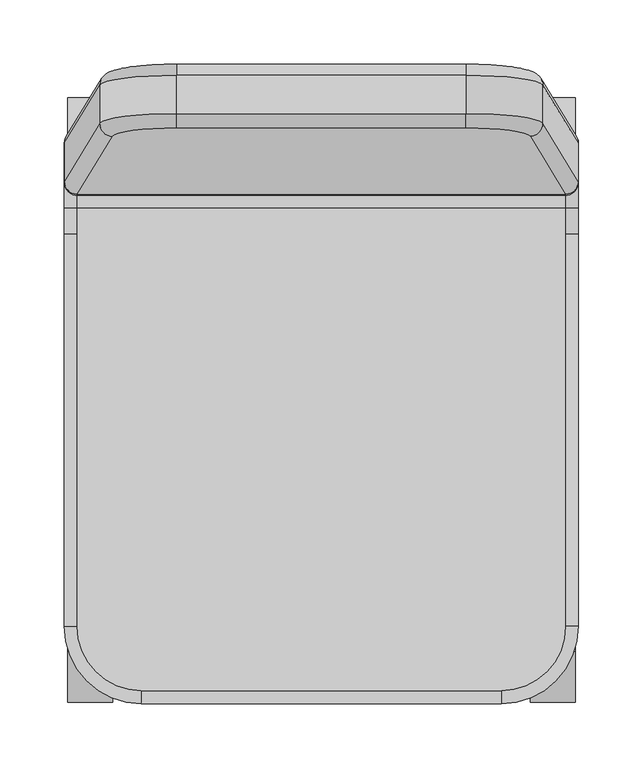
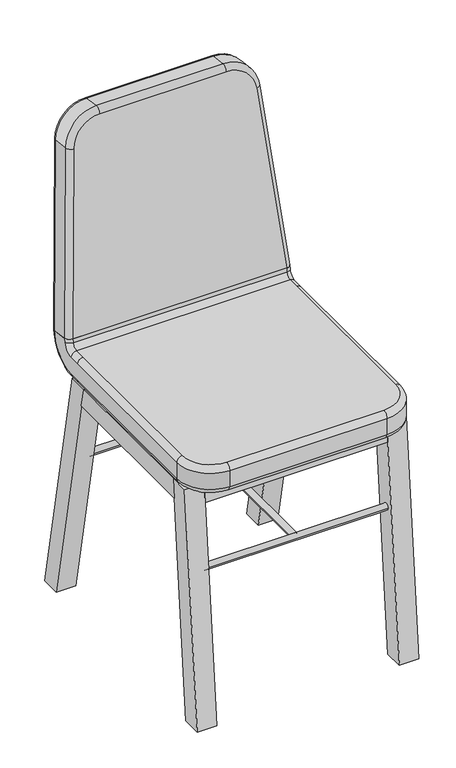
"""IFC4 building model written with IfcOpenShell, lengths in millimetres: furniture geometry, A Slim+back rest_H865-SH463 : A Slim+back rest_H865-SH463."""

from ifc_helpers import new_model, si_unit, point, frame, frame_2d, origin, place, context, project, spatial, polyline, circle_curve, ellipse_curve, trimmed, segment, composite_curve, outline, extrude, faceted_brep, source, transform, mapped, element, save
from ifc_brep_helpers import plane_surface, cylinder_surface, revolved_surface, advanced_brep


def furniture_b58ee545(model_context):
    return source(origin(), model_context, "Body", "SolidModel", [
        extrude(outline(polyline([(197.9880784, 398.0), (162.9880784, 398.0), (160.8287251, 409.0), (166.1174087, 409.0), (166.1174087, 422.0), (158.276762, 422.0), (156.1174087, 433.0), (191.1174087, 433.0), (197.9880784, 398.0)])), frame((-162.5, 0.0, 0.0), z_axis=(1.0, 0.0, 0.0), x_axis=(0.0, 1.0, 0.0)), (0.0, 0.0, 1.0), 325.0),
        faceted_brep([(-197.5, 162.9880784, 398.0), (-197.5, -123.0350162, 398.0), (-197.5, -119.8825913, 433.0), (-197.5, 156.1174087, 433.0), (-162.5, 156.1174087, 433.0), (-162.5, -119.8825913, 433.0), (-162.5, -120.8733534, 422.0), (-162.5, 158.276762, 422.0), (-162.5, -123.0350162, 398.0), (-162.5, 162.9880784, 398.0), (-162.5, 160.8287251, 409.0), (-162.5, -122.0442541, 409.0), (-172.5, 158.276762, 422.0), (-172.5, 160.8287251, 409.0), (-172.5, -122.0442541, 409.0), (-172.5, -120.8733534, 422.0)], [[[0, 1, 2, 3]], [[4, 5, 6, 7]], [[8, 9, 10, 11]], [[0, 3, 4, 7, 12, 13, 10, 9]], [[3, 2, 5, 4]], [[2, 1, 8, 11, 14, 15, 6, 5]], [[1, 0, 9, 8]], [[15, 12, 7, 6]], [[13, 14, 11, 10]], [[12, 15, 14, 13]]]),
        extrude(outline(polyline([(-157.4340818, 398.0), (-154.8825913, 433.0), (-119.9700277, 433.0), (-120.7719247, 422.0), (-129.9700277, 422.0), (-129.9700277, 409.0), (-121.7196212, 409.0), (-122.5215182, 398.0), (-157.4340818, 398.0)])), frame((-162.5, 0.0, 0.0), z_axis=(1.0, 0.0, 0.0), x_axis=(0.0, 1.0, 0.0)), (0.0, 0.0, 1.0), 325.0),
        faceted_brep([(162.5, 162.9880784, 398.0), (162.5, -123.0350162, 398.0), (162.5, -122.0442541, 409.0), (162.5, 160.8287251, 409.0), (162.5, -119.8825913, 433.0), (162.5, 156.1174087, 433.0), (162.5, 158.276762, 422.0), (162.5, -120.8733534, 422.0), (197.5, 162.9880784, 398.0), (197.5, 156.1174087, 433.0), (197.5, -119.8825913, 433.0), (197.5, -123.0350162, 398.0), (172.5, 160.8287251, 409.0), (172.5, 158.276762, 422.0), (172.5, -120.8733534, 422.0), (172.5, -122.0442541, 409.0)], [[[0, 1, 2, 3]], [[4, 5, 6, 7]], [[8, 9, 10, 11]], [[9, 8, 0, 3, 12, 13, 6, 5]], [[5, 4, 10, 9]], [[11, 10, 4, 7, 14, 15, 2, 1]], [[1, 0, 8, 11]], [[13, 14, 7, 6]], [[15, 12, 3, 2]], [[14, 13, 12, 15]]]),
        extrude(outline(composite_curve([segment(trimmed(circle_curve(frame_2d((-153.723629, 275.0)), 6.0), [point((-147.723629, 275.0))], [point((-159.723629, 275.0))], False, "CARTESIAN"), True, "CONTINUOUS"), segment(trimmed(circle_curve(frame_2d((-153.723629, 275.0)), 6.0), [point((-159.723629, 275.0))], [point((-147.723629, 275.0))], False, "CARTESIAN"), True, "CONTINUOUS")], self_intersect=False)), frame((-162.5, 0.0, 0.0), z_axis=(1.0, 0.0, 0.0), x_axis=(0.0, 1.0, 0.0)), (0.0, 0.0, 1.0), 325.0),
        extrude(outline(composite_curve([segment(trimmed(circle_curve(frame_2d((200.3092905, 275.0)), 6.0), [point((194.3092905, 275.0))], [point((206.3092905, 275.0))], False, "CARTESIAN"), True, "CONTINUOUS"), segment(trimmed(circle_curve(frame_2d((200.3092905, 275.0)), 6.0), [point((206.3092905, 275.0))], [point((194.3092905, 275.0))], False, "CARTESIAN"), True, "CONTINUOUS")], self_intersect=False)), frame((-162.5, 0.0, 0.0), z_axis=(1.0, 0.0, 0.0), x_axis=(0.0, 1.0, 0.0)), (0.0, 0.0, 1.0), 325.0),
        extrude(outline(composite_curve([segment(trimmed(circle_curve(frame_2d((275.0, 0.0)), 6.0), [point((275.0, -6.0))], [point((275.0, 6.0))], False, "CARTESIAN"), True, "CONTINUOUS"), segment(trimmed(circle_curve(frame_2d((275.0, 0.0)), 6.0), [point((275.0, 6.0))], [point((275.0, -6.0))], False, "CARTESIAN"), True, "CONTINUOUS")], self_intersect=False)), frame((0.0, -152.6825913, 0.0), z_axis=(0.0, 1.0, 0.0), x_axis=(0.0, 0.0, 1.0)), (0.0, 0.0, 1.0), 352.9918818),
        extrude(outline(polyline([(-158.8825913, 0.0), (-193.8825913, 0.0), (-154.8825913, 433.0), (-119.8825913, 433.0), (-158.8825913, 0.0)])), frame((-197.5, 0.0, 0.0), z_axis=(1.0, 0.0, 0.0), x_axis=(0.0, 1.0, 0.0)), (0.0, 0.0, 1.0), 35.0),
        extrude(outline(polyline([(276.1174087, 0.0), (241.1174087, 0.0), (156.1174087, 433.0), (191.1174087, 433.0), (276.1174087, 0.0)])), frame((-197.5, 0.0, 0.0), z_axis=(1.0, 0.0, 0.0), x_axis=(0.0, 1.0, 0.0)), (0.0, 0.0, 1.0), 35.0),
        extrude(outline(polyline([(276.1174087, 0.0), (241.1174087, 0.0), (156.1174087, 433.0), (191.1174087, 433.0), (276.1174087, 0.0)])), frame((162.5, 0.0, 0.0), z_axis=(1.0, 0.0, 0.0), x_axis=(0.0, 1.0, 0.0)), (0.0, 0.0, 1.0), 35.0),
        extrude(outline(polyline([(-158.8825913, 0.0), (-193.8825913, 0.0), (-154.8825913, 433.0), (-119.8825913, 433.0), (-158.8825913, 0.0)])), frame((162.5, 0.0, 0.0), z_axis=(1.0, 0.0, 0.0), x_axis=(0.0, 1.0, 0.0)), (0.0, 0.0, 1.0), 35.0),
        advanced_brep(
        [(-189.9658674, 201.0, 499.0), (189.9638891, 201.0, 499.0), (162.45903, 246.0027056, 819.2108889), (112.6493241, 252.3548743, 864.4089174), (-112.6513024, 252.3548743, 864.4089174), (-162.4610373, 246.002706, 819.2108914), (189.9638891, 250.5134034, 492.041345), (-189.9658674, 250.5134034, 492.041345), (-162.4610084, 295.516109, 812.2522339), (-112.6513024, 301.8682777, 857.4502623), (112.6493241, 301.8682777, 857.4502623), (162.459059, 295.5161094, 812.2522363), (-112.6513024, 263.649286, 872.919867), (112.6493241, 263.649286, 872.919867), (112.6493241, 293.357328, 868.744674), (-112.6513024, 293.357328, 868.744674), (-200.0019784, 210.9026807, 497.608269), (-200.0019784, 240.6107227, 493.433076), (200.0, 240.6107227, 493.433076), (200.0, 210.9026807, 497.608269), (-172.4229843, 256.026684, 818.6822359), (-172.4229843, 285.7347261, 814.5070428), (172.4210059, 256.026684, 818.6822359), (172.4210059, 285.7347261, 814.5070428)],
        [
            (0, 1),
            (1, 2),
            (2, 3, circle_curve(frame((112.6493241, 245.3962192, 814.8955139), z_axis=(0.0, -0.9902680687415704, 0.13917310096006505), x_axis=(0.9961946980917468, 0.012129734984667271, 0.08630754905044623)), 50.0)),
            (3, 4),
            (4, 5, circle_curve(frame((-112.6513024, 245.3962192, 814.8955139), z_axis=(0.0, -0.9902680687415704, 0.13917310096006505), x_axis=(0.0, 0.13917310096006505, 0.9902680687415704)), 50.0)),
            (5, 0),
            (6, 7),
            (7, 8),
            (8, 9, circle_curve(frame((-112.6513024, 294.9096226, 807.9368589), z_axis=(0.0, 0.9902680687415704, -0.13917310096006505), x_axis=(-0.996194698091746, 0.01212973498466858, 0.08630754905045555)), 50.0)),
            (9, 10),
            (10, 11, circle_curve(frame((112.6493241, 294.9096226, 807.9368589), z_axis=(0.0, 0.9902680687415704, -0.13917310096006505), x_axis=(0.0, 0.13917310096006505, 0.9902680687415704)), 50.0)),
            (11, 6),
            (12, 13),
            (13, 14),
            (14, 15),
            (15, 12),
            (0, 16, ellipse_curve(frame((-189.9658674, 210.9026807, 497.608269), z_axis=(0.0, -0.13917310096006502, -0.9902680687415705), x_axis=(-1.0, 0.0, 0.0)), 10.0361109, 10.0)),
            (16, 17),
            (17, 7, ellipse_curve(frame((-189.9658674, 240.6107227, 493.433076), z_axis=(0.0, -0.13917310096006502, -0.9902680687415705), x_axis=(1.0, 0.0, 0.0)), 10.0361109, 10.0)),
            (6, 18, ellipse_curve(frame((189.9638891, 240.6107227, 493.433076), z_axis=(0.0, -0.13917310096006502, -0.9902680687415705), x_axis=(1.0, 0.0, 0.0)), 10.0361109, 10.0)),
            (18, 19),
            (19, 1, ellipse_curve(frame((189.9638891, 210.9026807, 497.608269), z_axis=(0.0, -0.13917310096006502, -0.9902680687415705), x_axis=(-1.0, 0.0, 0.0)), 10.0361109, 10.0)),
            (16, 20),
            (20, 21),
            (21, 17),
            (22, 19),
            (18, 23),
            (23, 22),
            (20, 12, circle_curve(frame((-112.6513024, 255.2988999, 813.5037829), z_axis=(0.0, 0.9902680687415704, -0.13917310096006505), x_axis=(1.0, 0.0, 0.0)), 60.0)),
            (15, 21, circle_curve(frame((-112.6513024, 285.006942, 809.3285899), z_axis=(0.0, -0.9902680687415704, 0.13917310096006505), x_axis=(1.0, 0.0, 0.0)), 60.0)),
            (13, 22, circle_curve(frame((112.6493241, 255.2988999, 813.5037829), z_axis=(0.0, 0.9902680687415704, -0.13917310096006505), x_axis=(1.0, 0.0, 0.0)), 60.0)),
            (23, 14, circle_curve(frame((112.6493241, 285.006942, 809.3285899), z_axis=(0.0, -0.9902680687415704, 0.13917310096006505), x_axis=(1.0, 0.0, 0.0)), 60.0)),
            (22, 2, circle_curve(frame((162.459059, 255.9053866, 817.8191604), z_axis=(0.08715574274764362, -0.1386435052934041, -0.9864997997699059), x_axis=(-0.9961946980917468, -0.012129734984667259, -0.08630754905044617)), 10.0)),
            (13, 3, circle_curve(frame((112.6493241, 262.2575549, 863.0171864), z_axis=(1.0, 0.0, 0.0), x_axis=(0.0, -0.13917310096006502, -0.9902680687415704)), 10.0)),
            (12, 4, circle_curve(frame((-112.6513024, 262.2575549, 863.0171864), z_axis=(1.0, 0.0, 0.0), x_axis=(0.0, -0.13917310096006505, -0.9902680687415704)), 10.0)),
            (20, 5, circle_curve(frame((-162.4610373, 255.9053866, 817.8191604), z_axis=(0.08715574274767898, 0.13864350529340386, 0.9864997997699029), x_axis=(0.9961946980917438, -0.012129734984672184, -0.0863075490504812)), 10.0)),
            (21, 8, circle_curve(frame((-162.4610373, 285.6134287, 813.6439673), z_axis=(-0.08715574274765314, -0.13864350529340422, -0.9864997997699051), x_axis=(0.996194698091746, -0.012129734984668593, -0.08630754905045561)), 10.0)),
            (15, 9, circle_curve(frame((-112.6513024, 291.965597, 858.8419933), z_axis=(-1.0, 0.0, 0.0), x_axis=(0.0, -0.13917310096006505, -0.9902680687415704)), 10.0)),
            (14, 10, circle_curve(frame((112.6493241, 291.965597, 858.8419933), z_axis=(-1.0, 0.0, 0.0), x_axis=(0.0, -0.13917310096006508, -0.9902680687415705)), 10.0)),
            (23, 11, circle_curve(frame((162.459059, 285.6134287, 813.6439673), z_axis=(-0.087155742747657, 0.13864350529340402, 0.9864997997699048), x_axis=(-0.9961946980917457, -0.012129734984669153, -0.08630754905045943)), 10.0)),
        ],
        [
            plane_surface(frame((-112.6513024, 253.7466053, 874.3115981), z_axis=(0.0, -0.9902680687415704, 0.13917310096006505), x_axis=(-1.0, 0.0, 0.0))),
            plane_surface(frame((-112.6513024, 303.2600087, 867.352943), z_axis=(0.0, 0.9902680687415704, -0.13917310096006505), x_axis=(1.0, 0.0, 0.0))),
            plane_surface(frame((112.6493241, 253.7466053, 874.3115981), z_axis=(0.0, 0.13917310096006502, 0.9902680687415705), x_axis=(0.0, 0.9902680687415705, -0.13917310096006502))),
            plane_surface(frame((-200.0019784, 201.0, 499.0), z_axis=(0.0, -0.13917310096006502, -0.9902680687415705), x_axis=(0.0, 0.9902680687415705, -0.13917310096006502))),
            plane_surface(frame((-172.4229843, 246.1240033, 820.0739669), z_axis=(-0.9964018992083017, 0.011795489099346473, 0.08392926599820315), x_axis=(0.0, 0.9902680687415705, -0.13917310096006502))),
            plane_surface(frame((200.0, 201.0, 499.0), z_axis=(0.9964018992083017, 0.011795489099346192, 0.08392926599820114), x_axis=(0.0, 0.9902680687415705, -0.13917310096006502))),
            cylinder_surface(frame((-112.6513024, 294.9096226, 807.9368589), z_axis=(0.0, -0.9902680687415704, 0.13917310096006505), x_axis=(1.0, 0.0, 0.0)), 60.0),
            cylinder_surface(frame((112.6493241, 294.9096226, 807.9368589), z_axis=(0.0, -0.9902680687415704, 0.13917310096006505), x_axis=(1.0, 0.0, 0.0)), 60.0),
            cylinder_surface(frame((190.035981, 210.7847258, 496.7689763), z_axis=(-0.08475408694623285, 0.13867234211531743, 0.9867049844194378), x_axis=(-0.9964018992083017, -0.011795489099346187, -0.08392926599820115)), 10.0),
            revolved_surface(trimmed(ellipse_curve(frame((162.459059, 255.9053866, 817.8191604), z_axis=(0.08715574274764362, -0.1386435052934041, -0.9864997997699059), x_axis=(-0.9961946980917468, -0.012129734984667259, -0.08630754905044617)), 10.0, 10.0), [point((172.4210059, 256.026684, 818.6822359))], [point((162.459059, 246.002706, 819.2108914))], True, "CARTESIAN"), (112.6493241, 245.3962192, 814.8955139), (0.0, -0.9902680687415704, 0.13917310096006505)),
            cylinder_surface(frame((112.6493241, 262.2575549, 863.0171864), z_axis=(-1.0, 0.0, 0.0), x_axis=(0.0, -0.13917310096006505, -0.9902680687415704)), 10.0),
            revolved_surface(trimmed(ellipse_curve(frame((-112.6513024, 262.2575549, 863.0171864), z_axis=(1.0, 0.0, 0.0), x_axis=(0.0, -0.13917310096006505, -0.9902680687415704)), 10.0, 10.0), [point((-112.6513024, 263.649286, 872.919867))], [point((-112.6513024, 252.3548743, 864.4089174))], True, "CARTESIAN"), (-112.6513024, 245.3962192, 814.8955139), (0.0, -0.9902680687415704, 0.13917310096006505)),
            cylinder_surface(frame((-162.4589653, 255.9087291, 817.8429432), z_axis=(-0.08475408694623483, -0.1386723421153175, -0.9867049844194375), x_axis=(0.9964018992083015, -0.011795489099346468, -0.0839292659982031)), 10.0),
            cylinder_surface(frame((-190.0379594, 240.4927679, 492.5937833), z_axis=(0.08475408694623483, 0.13867234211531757, 0.9867049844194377), x_axis=(0.9964018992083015, -0.01179548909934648, -0.0839292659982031)), 10.0),
            revolved_surface(trimmed(ellipse_curve(frame((-162.4610373, 285.6134287, 813.6439673), z_axis=(-0.08715574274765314, -0.13864350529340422, -0.9864997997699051), x_axis=(0.996194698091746, -0.012129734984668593, -0.08630754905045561)), 10.0, 10.0), [point((-172.4229843, 285.7347261, 814.5070428))], [point((-162.4610373, 295.5161094, 812.2522363))], True, "CARTESIAN"), (-112.6513024, 294.9096226, 807.9368589), (0.0, 0.9902680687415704, -0.13917310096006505)),
            cylinder_surface(frame((-112.6513024, 291.965597, 858.8419933), z_axis=(1.0000000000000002, 0.0, 0.0), x_axis=(0.0, -0.13917310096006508, -0.9902680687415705)), 10.0),
            revolved_surface(trimmed(ellipse_curve(frame((112.6493241, 291.965597, 858.8419933), z_axis=(-1.0, 0.0, 0.0), x_axis=(0.0, -0.13917310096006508, -0.9902680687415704)), 10.0, 10.0), [point((112.6493241, 293.357328, 868.744674))], [point((112.6493241, 301.8682777, 857.4502623))], True, "CARTESIAN"), (112.6493241, 294.9096226, 807.9368589), (0.0, 0.9902680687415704, -0.13917310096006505)),
            cylinder_surface(frame((162.4569869, 285.6167712, 813.6677502), z_axis=(0.08475408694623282, -0.13867234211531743, -0.9867049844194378), x_axis=(-0.9964018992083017, -0.011795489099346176, -0.08392926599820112)), 10.0),
        ],
        [
            (0, [[1, 2, 3, 4, 5, 6]]),
            (1, [[7, 8, 9, 10, 11, 12]]),
            (2, [[13, 14, 15, 16]]),
            (3, [[-1, 17, 18, 19, -7, 20, 21, 22]]),
            (4, [[23, 24, 25, -18]]),
            (5, [[26, -21, 27, 28]]),
            (6, [[29, -16, 30, -24]]),
            (7, [[31, -28, 32, -14]]),
            (8, [[33, -2, -22, -26]]),
            (9, [[-33, -31, 34, -3]]),
            (10, [[-34, -13, 35, -4]]),
            (11, [[-35, -29, 36, -5]]),
            (12, [[-36, -23, -17, -6]]),
            (13, [[37, -8, -19, -25]]),
            (14, [[-37, -30, 38, -9]]),
            (15, [[-38, -15, 39, -10]]),
            (16, [[-39, -32, 40, -11]]),
            (17, [[-40, -27, -20, -12]]),
        ],
    ),
        advanced_brep(
        [(-190.0, 170.0605576, 483.0), (-190.0, -135.0, 483.0), (-140.0, -185.0, 483.0), (140.0, -185.0, 483.0), (190.0, -135.0, 483.0), (190.0, 170.0605576, 483.0), (190.0, 190.0605576, 483.0), (-190.0, 190.0605576, 483.0), (190.0, 170.0605576, 433.0), (190.0, -135.0, 433.0), (140.0, -185.0, 433.0), (-140.0, -185.0, 433.0), (-190.0, -135.0, 433.0), (-190.0, 170.0605576, 433.0), (-190.0, 190.0605576, 433.0), (190.0, 190.0605576, 433.0), (-200.0, -135.0, 473.0), (-200.0, 170.0605576, 473.0), (-200.0, 190.0605576, 473.0), (-200.0, 209.865919, 490.216538), (-200.0, 210.9101366, 497.6465328), (-200.0, 240.6181787, 493.4713398), (-200.0, 239.573961, 486.041345), (-200.0, 190.0605576, 443.0), (-200.0, 170.0605576, 443.0), (-200.0, -135.0, 443.0), (-140.0, -195.0, 473.0), (-140.0, -195.0, 443.0), (140.0, -195.0, 473.0), (140.0, -195.0, 443.0), (200.0, -135.0, 473.0), (200.0, -135.0, 443.0), (200.0, 170.0605576, 473.0), (200.0, 170.0605576, 443.0), (200.0, 190.0605576, 443.0), (200.0, 239.573961, 486.041345), (200.0, 240.6181787, 493.4713398), (200.0, 210.9101366, 497.6465328), (200.0, 209.865919, 490.216538), (200.0, 190.0605576, 473.0), (-190.0, 201.007456, 499.0382638), (190.0, 201.007456, 499.0382638), (190.0, 250.5208594, 492.0796088), (-190.0, 250.5208594, 492.0796088), (190.0, 199.9632383, 491.608269), (-190.0, 199.9632383, 491.608269), (-190.0, 249.4766417, 484.6496139), (190.0, 249.4766417, 484.6496139)],
        [
            (0, 1),
            (1, 2, circle_curve(frame((-140.0, -135.0, 483.0), z_axis=(0.0, 0.0, 1.0), x_axis=(-1.0, 0.0, 0.0)), 50.0)),
            (2, 3),
            (3, 4, circle_curve(frame((140.0, -135.0, 483.0), z_axis=(0.0, 0.0, 1.0), x_axis=(0.0, -1.0, 0.0)), 50.0)),
            (4, 5),
            (5, 6),
            (6, 7),
            (7, 0),
            (8, 9),
            (9, 10, circle_curve(frame((140.0, -135.0, 433.0), z_axis=(0.0, 0.0, -1.0), x_axis=(1.0, 0.0, 0.0)), 50.0)),
            (10, 11),
            (11, 12, circle_curve(frame((-140.0, -135.0, 433.0), z_axis=(0.0, 0.0, -1.0), x_axis=(0.0, -1.0, 0.0)), 50.0)),
            (12, 13),
            (13, 14),
            (14, 15),
            (15, 8),
            (16, 17),
            (17, 18),
            (18, 19, circle_curve(frame((-200.0, 190.0605576, 493.0), z_axis=(1.0, 0.0, 0.0), x_axis=(0.0, 0.0, -1.0)), 20.0)),
            (19, 20),
            (20, 21),
            (21, 22),
            (22, 23, circle_curve(frame((-200.0, 190.0605576, 493.0), z_axis=(-1.0, 0.0, 0.0), x_axis=(0.0, 0.0, -1.0)), 50.0)),
            (23, 24),
            (24, 25),
            (25, 16),
            (26, 16, circle_curve(frame((-140.0, -135.0, 473.0), z_axis=(0.0, 0.0, -1.0), x_axis=(1.0, 0.0, 0.0)), 60.0)),
            (25, 27, circle_curve(frame((-140.0, -135.0, 443.0), z_axis=(0.0, 0.0, 1.0), x_axis=(1.0, 0.0, 0.0)), 60.0)),
            (27, 26),
            (28, 26),
            (27, 29),
            (29, 28),
            (30, 28, circle_curve(frame((140.0, -135.0, 473.0), z_axis=(0.0, 0.0, -1.0), x_axis=(1.0, 0.0, 0.0)), 60.0)),
            (29, 31, circle_curve(frame((140.0, -135.0, 443.0), z_axis=(0.0, 0.0, 1.0), x_axis=(1.0, 0.0, 0.0)), 60.0)),
            (31, 30),
            (32, 30),
            (31, 33),
            (33, 34),
            (34, 35, circle_curve(frame((200.0, 190.0605576, 493.0), z_axis=(1.0, 0.0, 0.0), x_axis=(0.0, 0.0, -1.0)), 50.0)),
            (35, 36),
            (36, 37),
            (37, 38),
            (38, 39, circle_curve(frame((200.0, 190.0605576, 493.0), z_axis=(-1.0, 0.0, 0.0), x_axis=(0.0, 0.0, -1.0)), 20.0)),
            (39, 32),
            (16, 1, circle_curve(frame((-190.0, -135.0, 473.0), z_axis=(0.0, 1.0, 0.0), x_axis=(1.0, 0.0, 0.0)), 10.0)),
            (0, 17, circle_curve(frame((-190.0, 170.0605576, 473.0), z_axis=(0.0, -1.0, 0.0), x_axis=(1.0, 0.0, 0.0)), 10.0)),
            (26, 2, circle_curve(frame((-140.0, -185.0, 473.0), z_axis=(-1.0, 0.0, 0.0), x_axis=(0.0, 1.0, 0.0)), 10.0)),
            (28, 3, circle_curve(frame((140.0, -185.0, 473.0), z_axis=(-1.0, 0.0, 0.0), x_axis=(0.0, 1.0, 0.0)), 10.0)),
            (30, 4, circle_curve(frame((190.0, -135.0, 473.0), z_axis=(0.0, -1.0, 0.0), x_axis=(-1.0, 0.0, 0.0)), 10.0)),
            (32, 5, circle_curve(frame((190.0, 170.0605576, 473.0), z_axis=(0.0, -1.0, 0.0), x_axis=(-1.0, 0.0, 0.0)), 10.0)),
            (31, 9, circle_curve(frame((190.0, -135.0, 443.0), z_axis=(0.0, 1.0, 0.0), x_axis=(-1.0, 0.0, 0.0)), 10.0)),
            (8, 33, circle_curve(frame((190.0, 170.0605576, 443.0), z_axis=(0.0, -1.0, 0.0), x_axis=(-1.0, 0.0, 0.0)), 10.0)),
            (29, 10, circle_curve(frame((140.0, -185.0, 443.0), z_axis=(1.0, 0.0, 0.0), x_axis=(0.0, 1.0, 0.0)), 10.0)),
            (27, 11, circle_curve(frame((-140.0, -185.0, 443.0), z_axis=(1.0, 0.0, 0.0), x_axis=(0.0, 1.0, 0.0)), 10.0)),
            (25, 12, circle_curve(frame((-190.0, -135.0, 443.0), z_axis=(0.0, -1.0, 0.0), x_axis=(1.0, 0.0, 0.0)), 10.0)),
            (24, 13, circle_curve(frame((-190.0, 170.0605576, 443.0), z_axis=(0.0, -1.0, 0.0), x_axis=(1.0, 0.0, 0.0)), 10.0)),
            (20, 40, circle_curve(frame((-190.0, 210.9101366, 497.6465328), z_axis=(0.0, 0.13917310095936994, 0.9902680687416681), x_axis=(0.0, -0.9902680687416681, 0.13917310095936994)), 10.0)),
            (40, 41),
            (41, 37, circle_curve(frame((190.0, 210.9101366, 497.6465328), z_axis=(0.0, 0.13917310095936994, 0.9902680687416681), x_axis=(0.0, -0.9902680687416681, 0.13917310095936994)), 10.0)),
            (36, 42, circle_curve(frame((190.0, 240.6181787, 493.4713398), z_axis=(0.0, 0.13917310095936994, 0.9902680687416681), x_axis=(0.0, -0.9902680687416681, 0.13917310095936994)), 10.0)),
            (42, 43),
            (43, 21, circle_curve(frame((-190.0, 240.6181787, 493.4713398), z_axis=(0.0, 0.13917310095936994, 0.9902680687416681), x_axis=(0.0, -0.9902680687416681, 0.13917310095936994)), 10.0)),
            (7, 18, circle_curve(frame((-190.0, 190.0605576, 473.0), z_axis=(0.0, -1.0, 0.0), x_axis=(0.0, 0.0, 1.0)), 10.0)),
            (23, 14, circle_curve(frame((-190.0, 190.0605576, 443.0), z_axis=(0.0, -1.0, 0.0), x_axis=(0.0, 0.0, 1.0)), 10.0)),
            (15, 34, circle_curve(frame((190.0, 190.0605576, 443.0), z_axis=(0.0, -1.0, 0.0), x_axis=(0.0, 0.0, 1.0)), 10.0)),
            (39, 6, circle_curve(frame((190.0, 190.0605576, 473.0), z_axis=(0.0, -1.0, 0.0), x_axis=(0.0, 0.0, 1.0)), 10.0)),
            (6, 44, circle_curve(frame((190.0, 190.0605576, 493.0), z_axis=(1.0, 0.0, 0.0), x_axis=(0.0, 0.0, -1.0)), 10.0)),
            (44, 45),
            (45, 7, circle_curve(frame((-190.0, 190.0605576, 493.0), z_axis=(-1.0, 0.0, 0.0), x_axis=(0.0, 0.0, -1.0)), 10.0)),
            (45, 19, circle_curve(frame((-190.0, 209.865919, 490.216538), z_axis=(0.0, -0.13917310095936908, -0.9902680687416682), x_axis=(0.0, -0.9902680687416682, 0.13917310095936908)), 10.0)),
            (22, 46, circle_curve(frame((-190.0, 239.573961, 486.041345), z_axis=(0.0, -0.13917310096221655, -0.9902680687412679), x_axis=(0.0, -0.9902680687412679, 0.13917310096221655)), 10.0)),
            (46, 14, circle_curve(frame((-190.0, 190.0605576, 493.0), z_axis=(-1.0, 0.0, 0.0), x_axis=(0.0, 0.0, -1.0)), 60.0)),
            (46, 47),
            (47, 15, circle_curve(frame((190.0, 190.0605576, 493.0), z_axis=(-1.0, 0.0, 0.0), x_axis=(0.0, 0.0, -1.0)), 60.0)),
            (47, 35, circle_curve(frame((190.0, 239.573961, 486.041345), z_axis=(0.0, -0.13917310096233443, -0.9902680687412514), x_axis=(0.0, -0.9902680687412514, 0.13917310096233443)), 10.0)),
            (38, 44, circle_curve(frame((190.0, 209.865919, 490.216538), z_axis=(0.0, -0.13917310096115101, -0.9902680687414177), x_axis=(0.0, -0.9902680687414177, 0.13917310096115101)), 10.0)),
            (40, 45),
            (44, 41),
            (43, 46),
            (42, 47),
        ],
        [
            plane_surface(frame((-200.0, 170.0605576, 483.0), z_axis=(0.0, 0.0, 1.0), x_axis=(-1.0, 0.0, 0.0))),
            plane_surface(frame((-200.0, 170.0605576, 433.0), z_axis=(0.0, 0.0, -1.0), x_axis=(1.0, 0.0, 0.0))),
            plane_surface(frame((-200.0, 170.0605576, 483.0), z_axis=(-1.0, 0.0, 0.0), x_axis=(0.0, 0.0, -1.0))),
            cylinder_surface(frame((-140.0, -135.0, 433.0), z_axis=(0.0, 0.0, 1.0), x_axis=(1.0, 0.0, 0.0)), 60.0),
            plane_surface(frame((-140.0, -195.0, 483.0), z_axis=(0.0, -1.0, 0.0), x_axis=(0.0, 0.0, -1.0))),
            cylinder_surface(frame((140.0, -135.0, 433.0), z_axis=(0.0, 0.0, 1.0), x_axis=(1.0, 0.0, 0.0)), 60.0),
            plane_surface(frame((200.0, -135.0, 483.0), z_axis=(1.0, 0.0, 0.0), x_axis=(0.0, 0.0, -1.0))),
            cylinder_surface(frame((-190.0, 170.0605576, 473.0), z_axis=(0.0, -1.0, 0.0), x_axis=(1.0, 0.0, 0.0)), 10.0),
            revolved_surface(trimmed(ellipse_curve(frame((-190.0, -135.0, 473.0), z_axis=(0.0, 1.0, 0.0), x_axis=(1.0, 0.0, 0.0)), 10.0, 10.0), [point((-200.0, -135.0, 473.0))], [point((-190.0, -135.0, 483.0))], True, "CARTESIAN"), (-140.0, -135.0, 483.0), (0.0, 0.0, 1.0)),
            cylinder_surface(frame((-140.0, -185.0, 473.0), z_axis=(1.0, 0.0, 0.0), x_axis=(0.0, 1.0, 0.0)), 10.0),
            revolved_surface(trimmed(ellipse_curve(frame((140.0, -185.0, 473.0), z_axis=(-1.0, 0.0, 0.0), x_axis=(0.0, 1.0, 0.0)), 10.0, 10.0), [point((140.0, -195.0, 473.0))], [point((140.0, -185.0, 483.0))], True, "CARTESIAN"), (140.0, -135.0, 483.0), (0.0, 0.0, 1.0)),
            cylinder_surface(frame((190.0, -135.0, 473.0), z_axis=(0.0, 1.0, 0.0), x_axis=(-1.0, 0.0, 0.0)), 10.0),
            cylinder_surface(frame((190.0, 170.0605576, 443.0), z_axis=(0.0, -1.0, 0.0), x_axis=(-1.0, 0.0, 0.0)), 10.0),
            revolved_surface(trimmed(ellipse_curve(frame((190.0, -135.0, 443.0), z_axis=(0.0, 1.0, 0.0), x_axis=(-1.0, 0.0, 0.0)), 10.0, 10.0), [point((200.0, -135.0, 443.0))], [point((190.0, -135.0, 433.0))], True, "CARTESIAN"), (140.0, -135.0, 433.0), (0.0, 0.0, -1.0)),
            cylinder_surface(frame((140.0, -185.0, 443.0), z_axis=(-1.0, 0.0, 0.0), x_axis=(0.0, 1.0, 0.0)), 10.0),
            revolved_surface(trimmed(ellipse_curve(frame((-140.0, -185.0, 443.0), z_axis=(1.0, 0.0, 0.0), x_axis=(0.0, 1.0, 0.0)), 10.0, 10.0), [point((-140.0, -195.0, 443.0))], [point((-140.0, -185.0, 433.0))], True, "CARTESIAN"), (-140.0, -135.0, 433.0), (0.0, 0.0, -1.0)),
            cylinder_surface(frame((-190.0, -135.0, 443.0), z_axis=(0.0, 1.0, 0.0), x_axis=(1.0, 0.0, 0.0)), 10.0),
            plane_surface(frame((0.0, 201.007456, 499.0382638), z_axis=(0.0, 0.13917310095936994, 0.9902680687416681), x_axis=(1.0, 0.0, 0.0))),
            cylinder_surface(frame((-190.0, 170.0605576, 473.0), z_axis=(0.0, -1.0, 0.0), x_axis=(0.0, 0.0, 1.0)), 10.0),
            cylinder_surface(frame((-190.0, 170.0605576, 443.0), z_axis=(0.0, -1.0, 0.0), x_axis=(0.0, 0.0, 1.0)), 10.0),
            cylinder_surface(frame((190.0, 170.0605576, 443.0), z_axis=(0.0, -1.0, 0.0), x_axis=(0.0, 0.0, 1.0)), 10.0),
            cylinder_surface(frame((190.0, 170.0605576, 473.0), z_axis=(0.0, -1.0, 0.0), x_axis=(0.0, 0.0, 1.0)), 10.0),
            revolved_surface(polyline([(190.0, 190.0605576, 483.0), (-190.0, 190.0605576, 483.0)]), (0.0, 190.0605576, 493.0), (1.0, 0.0, 0.0)),
            revolved_surface(trimmed(ellipse_curve(frame((-190.0, 190.0605576, 473.0), z_axis=(0.0, -1.0, 0.0), x_axis=(0.0, 0.0, 1.0)), 10.0, 10.0), [point((-190.0, 190.0605576, 483.0))], [point((-200.0, 190.0605576, 473.0))], True, "CARTESIAN"), (0.0, 190.0605576, 493.0), (1.0, 0.0, 0.0)),
            revolved_surface(trimmed(ellipse_curve(frame((-190.0, 190.0605576, 443.0), z_axis=(0.0, -1.0, 0.0), x_axis=(0.0, 0.0, 1.0)), 10.0, 10.0), [point((-200.0, 190.0605576, 443.0))], [point((-190.0, 190.0605576, 433.0))], True, "CARTESIAN"), (0.0, 190.0605576, 493.0), (1.0, 0.0, 0.0)),
            cylinder_surface(frame((0.0, 190.0605576, 493.0), z_axis=(1.0, 0.0, 0.0), x_axis=(0.0, 0.0, -1.0)), 60.0),
            revolved_surface(trimmed(ellipse_curve(frame((190.0, 190.0605576, 443.0), z_axis=(0.0, -1.0, 0.0), x_axis=(0.0, 0.0, 1.0)), 10.0, 10.0), [point((190.0, 190.0605576, 433.0))], [point((200.0, 190.0605576, 443.0))], True, "CARTESIAN"), (0.0, 190.0605576, 493.0), (1.0, 0.0, 0.0)),
            revolved_surface(trimmed(ellipse_curve(frame((190.0, 190.0605576, 473.0), z_axis=(0.0, -1.0, 0.0), x_axis=(0.0, 0.0, 1.0)), 10.0, 10.0), [point((200.0, 190.0605576, 473.0))], [point((190.0, 190.0605576, 483.0))], True, "CARTESIAN"), (0.0, 190.0605576, 493.0), (1.0, 0.0, 0.0)),
            plane_surface(frame((190.0, 199.9632383, 491.608269), z_axis=(0.0, -0.9902680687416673, 0.13917310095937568), x_axis=(0.0, 0.13917310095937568, 0.9902680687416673))),
            cylinder_surface(frame((-190.0, 209.865919, 490.216538), z_axis=(0.0, -0.13917310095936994, -0.9902680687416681), x_axis=(0.0, -0.9902680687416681, 0.13917310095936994)), 10.0),
            cylinder_surface(frame((-190.0, 239.573961, 486.041345), z_axis=(0.0, -0.13917310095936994, -0.9902680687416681), x_axis=(0.0, -0.9902680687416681, 0.13917310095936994)), 10.0),
            plane_surface(frame((-190.0, 249.4766417, 484.6496139), z_axis=(0.0, 0.9902680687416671, -0.13917310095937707), x_axis=(0.0, 0.13917310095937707, 0.9902680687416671))),
            cylinder_surface(frame((190.0, 239.573961, 486.041345), z_axis=(0.0, -0.13917310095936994, -0.9902680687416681), x_axis=(0.0, -0.9902680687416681, 0.13917310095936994)), 10.0),
            cylinder_surface(frame((190.0, 209.865919, 490.216538), z_axis=(0.0, -0.13917310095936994, -0.9902680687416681), x_axis=(0.0, -0.9902680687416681, 0.13917310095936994)), 10.0),
        ],
        [
            (0, [[1, 2, 3, 4, 5, 6, 7, 8]]),
            (1, [[9, 10, 11, 12, 13, 14, 15, 16]]),
            (2, [[17, 18, 19, 20, 21, 22, 23, 24, 25, 26]]),
            (3, [[27, -26, 28, 29]]),
            (4, [[30, -29, 31, 32]]),
            (5, [[33, -32, 34, 35]]),
            (6, [[36, -35, 37, 38, 39, 40, 41, 42, 43, 44]]),
            (7, [[45, -1, 46, -17]]),
            (8, [[-45, -27, 47, -2]]),
            (9, [[-47, -30, 48, -3]]),
            (10, [[-48, -33, 49, -4]]),
            (11, [[-49, -36, 50, -5]]),
            (12, [[51, -9, 52, -37]]),
            (13, [[-51, -34, 53, -10]]),
            (14, [[-53, -31, 54, -11]]),
            (15, [[-54, -28, 55, -12]]),
            (16, [[-55, -25, 56, -13]]),
            (17, [[-21, 57, 58, 59, -41, 60, 61, 62]]),
            (18, [[-8, 63, -18, -46]]),
            (19, [[-24, 64, -14, -56]]),
            (20, [[-16, 65, -38, -52]]),
            (21, [[-6, -50, -44, 66]]),
            (22, [[-7, 67, 68, 69]]),
            (23, [[-19, -63, -69, 70]]),
            (24, [[-23, 71, 72, -64]]),
            (25, [[-15, -72, 73, 74]]),
            (26, [[-39, -65, -74, 75]]),
            (27, [[-43, 76, -67, -66]]),
            (28, [[-58, 77, -68, 78]]),
            (29, [[-20, -70, -77, -57]]),
            (30, [[-22, -62, 79, -71]]),
            (31, [[-61, 80, -73, -79]]),
            (32, [[-40, -75, -80, -60]]),
            (33, [[-42, -59, -78, -76]]),
        ],
    ),
    ])


if __name__ == "__main__":
    model = new_model("IFC4")
    model_context = context("Model", 3, world=origin())
    ifc_project = project(units=[si_unit("LENGTHUNIT", "METRE", prefix="MILLI")], contexts=[model_context])
    site = spatial("IfcSite", under=ifc_project)
    building = spatial("IfcBuilding", under=site)
    placement = place(None, origin())
    furniture_shape = furniture_b58ee545(model_context)
    element("IfcFurniture", 1, ObjectType="A Slim+back rest_H865-SH463 : A Slim+back rest_H865-SH463", at=placement, inside=building, context=model_context, shape_type="MappedRepresentation", body=[
        mapped(furniture_shape, transform((0.0, 0.0, 0.0), x_axis=(1.0, 0.0, 0.0), y_axis=(0.0, 1.0, 0.0), z_axis=(0.0, 0.0, 1.0))),
    ])
    save(model, "model.ifc")
